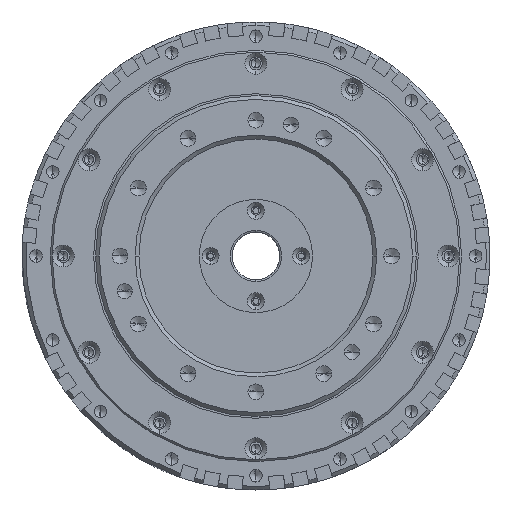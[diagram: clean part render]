
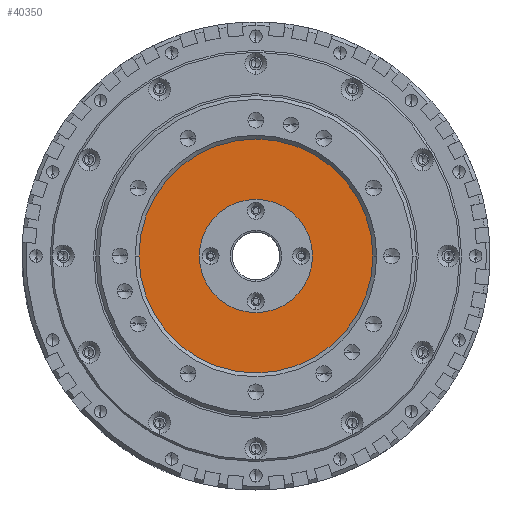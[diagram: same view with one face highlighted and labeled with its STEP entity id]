
A CAD part, front view. The second image highlights one B-rep face of the part: STEP entity #40350.
In plain terms, the highlighted planar face has unit normal (0, -1, 0).
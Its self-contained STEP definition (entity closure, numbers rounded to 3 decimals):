
#748 = EDGE_CURVE ( 'NONE', #40976, #34100, #58476, .T. ) ;
#1823 = CIRCLE ( 'NONE', #61946, 31. ) ;
#2079 = CARTESIAN_POINT ( 'NONE',  ( 0., -5., 0. ) ) ;
#4797 = DIRECTION ( 'NONE',  ( -1., 0., 0. ) ) ;
#5447 = ORIENTED_EDGE ( 'NONE', *, *, #748, .F. ) ;
#6342 = ORIENTED_EDGE ( 'NONE', *, *, #26826, .T. ) ;
#6822 = AXIS2_PLACEMENT_3D ( 'NONE', #10190, #24870, #4797 ) ;
#9005 = AXIS2_PLACEMENT_3D ( 'NONE', #17821, #62174, #47169 ) ;
#10009 = CIRCLE ( 'NONE', #9005, 15. ) ;
#10081 = DIRECTION ( 'NONE',  ( 0., -1., 0. ) ) ;
#10190 = CARTESIAN_POINT ( 'NONE',  ( 0., -5., 0. ) ) ;
#15176 = FACE_OUTER_BOUND ( 'NONE', #20199, .T. ) ;
#17821 = CARTESIAN_POINT ( 'NONE',  ( 0., -5., 0. ) ) ;
#18135 = CARTESIAN_POINT ( 'NONE',  ( 31., -5., 0. ) ) ;
#18878 = AXIS2_PLACEMENT_3D ( 'NONE', #34621, #10081, #34319 ) ;
#19333 = PLANE ( 'NONE',  #18878 ) ;
#19695 = CARTESIAN_POINT ( 'NONE',  ( -15., -5., 0. ) ) ;
#20199 = EDGE_LOOP ( 'NONE', ( #24795, #6342 ) ) ;
#21937 = ORIENTED_EDGE ( 'NONE', *, *, #53022, .F. ) ;
#22228 = VERTEX_POINT ( 'NONE', #18135 ) ;
#23844 = CARTESIAN_POINT ( 'NONE',  ( -31., -5., 0. ) ) ;
#24795 = ORIENTED_EDGE ( 'NONE', *, *, #50857, .T. ) ;
#24870 = DIRECTION ( 'NONE',  ( 0., -1., 0. ) ) ;
#25834 = AXIS2_PLACEMENT_3D ( 'NONE', #2079, #54113, #49951 ) ;
#26826 = EDGE_CURVE ( 'NONE', #22228, #27198, #1823, .T. ) ;
#27198 = VERTEX_POINT ( 'NONE', #23844 ) ;
#30253 = CIRCLE ( 'NONE', #6822, 31. ) ;
#30733 = EDGE_LOOP ( 'NONE', ( #21937, #5447 ) ) ;
#34100 = VERTEX_POINT ( 'NONE', #19695 ) ;
#34319 = DIRECTION ( 'NONE',  ( -1., 0., 0. ) ) ;
#34621 = CARTESIAN_POINT ( 'NONE',  ( 0., -5., 0. ) ) ;
#34976 = CARTESIAN_POINT ( 'NONE',  ( 0., -5., 0. ) ) ;
#40068 = DIRECTION ( 'NONE',  ( 0., -1., 0. ) ) ;
#40350 = ADVANCED_FACE ( 'NONE', ( #58901, #15176 ), #19333, .T. ) ;
#40976 = VERTEX_POINT ( 'NONE', #43905 ) ;
#41858 = DIRECTION ( 'NONE',  ( -1., 0., 0. ) ) ;
#43905 = CARTESIAN_POINT ( 'NONE',  ( 15., -5., 0. ) ) ;
#47169 = DIRECTION ( 'NONE',  ( -1., 0., 0. ) ) ;
#49951 = DIRECTION ( 'NONE',  ( -1., 0., 0. ) ) ;
#50857 = EDGE_CURVE ( 'NONE', #27198, #22228, #30253, .T. ) ;
#53022 = EDGE_CURVE ( 'NONE', #34100, #40976, #10009, .T. ) ;
#54113 = DIRECTION ( 'NONE',  ( 0., -1., 0. ) ) ;
#58476 = CIRCLE ( 'NONE', #25834, 15. ) ;
#58901 = FACE_BOUND ( 'NONE', #30733, .T. ) ;
#61946 = AXIS2_PLACEMENT_3D ( 'NONE', #34976, #40068, #41858 ) ;
#62174 = DIRECTION ( 'NONE',  ( 0., -1., 0. ) ) ;
